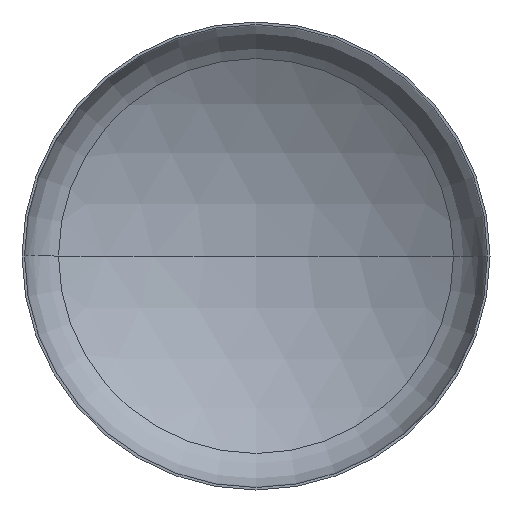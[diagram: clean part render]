
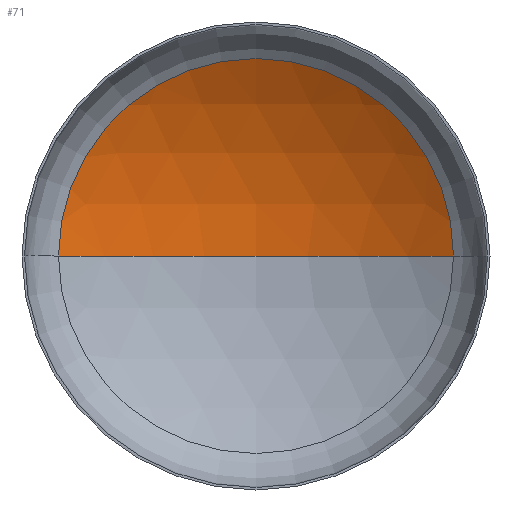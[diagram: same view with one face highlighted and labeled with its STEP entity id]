
A CAD part, front view. The second image highlights one B-rep face of the part: STEP entity #71.
In plain terms, the highlighted spherical face has radius 5200 mm.
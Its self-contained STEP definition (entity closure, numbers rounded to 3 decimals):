
#1 = VERTEX_POINT ( 'NONE', #295 ) ;
#16 = FACE_OUTER_BOUND ( 'NONE', #94, .T. ) ;
#24 = ORIENTED_EDGE ( 'NONE', *, *, #150, .F. ) ;
#71 = ADVANCED_FACE ( 'NONE', ( #16 ), #182, .F. ) ;
#87 = VERTEX_POINT ( 'NONE', #236 ) ;
#94 = EDGE_LOOP ( 'NONE', ( #24, #104, #110 ) ) ;
#99 = AXIS2_PLACEMENT_3D ( 'NONE', #203, #205, #191 ) ;
#104 = ORIENTED_EDGE ( 'NONE', *, *, #148, .T. ) ;
#110 = ORIENTED_EDGE ( 'NONE', *, *, #146, .T. ) ;
#111 = AXIS2_PLACEMENT_3D ( 'NONE', #304, #229, #225 ) ;
#117 = VERTEX_POINT ( 'NONE', #238 ) ;
#120 = AXIS2_PLACEMENT_3D ( 'NONE', #183, #194, #195 ) ;
#131 = AXIS2_PLACEMENT_3D ( 'NONE', #263, #283, #260 ) ;
#146 = EDGE_CURVE ( 'NONE', #1, #117, #233, .T. ) ;
#148 = EDGE_CURVE ( 'NONE', #87, #1, #408, .T. ) ;
#150 = EDGE_CURVE ( 'NONE', #87, #117, #402, .T. ) ;
#182 = SPHERICAL_SURFACE ( 'NONE', #131, 5200. ) ;
#183 = CARTESIAN_POINT ( 'NONE',  ( 0., 959.629, 0. ) ) ;
#191 = DIRECTION ( 'NONE',  ( 1., 0., 0. ) ) ;
#194 = DIRECTION ( 'NONE',  ( 0., -1., 0. ) ) ;
#195 = DIRECTION ( 'NONE',  ( 1., 0., 0. ) ) ;
#203 = CARTESIAN_POINT ( 'NONE',  ( 0., -3458.442, 0. ) ) ;
#205 = DIRECTION ( 'NONE',  ( 0., 0., 1. ) ) ;
#225 = DIRECTION ( 'NONE',  ( -1., 0., 0. ) ) ;
#229 = DIRECTION ( 'NONE',  ( 0., 0., -1. ) ) ;
#233 = CIRCLE ( 'NONE', #120, 2742.381 ) ;
#236 = CARTESIAN_POINT ( 'NONE',  ( 0., 1741.558, 0. ) ) ;
#238 = CARTESIAN_POINT ( 'NONE',  ( -2742.381, 959.629, 0. ) ) ;
#260 = DIRECTION ( 'NONE',  ( -1., 0., 0. ) ) ;
#263 = CARTESIAN_POINT ( 'NONE',  ( 0., -3458.442, 0. ) ) ;
#283 = DIRECTION ( 'NONE',  ( 0., 0., -1. ) ) ;
#295 = CARTESIAN_POINT ( 'NONE',  ( 2742.381, 959.629, 0. ) ) ;
#304 = CARTESIAN_POINT ( 'NONE',  ( 0., -3458.442, 0. ) ) ;
#402 = CIRCLE ( 'NONE', #99, 5200. ) ;
#408 = CIRCLE ( 'NONE', #111, 5200. ) ;
